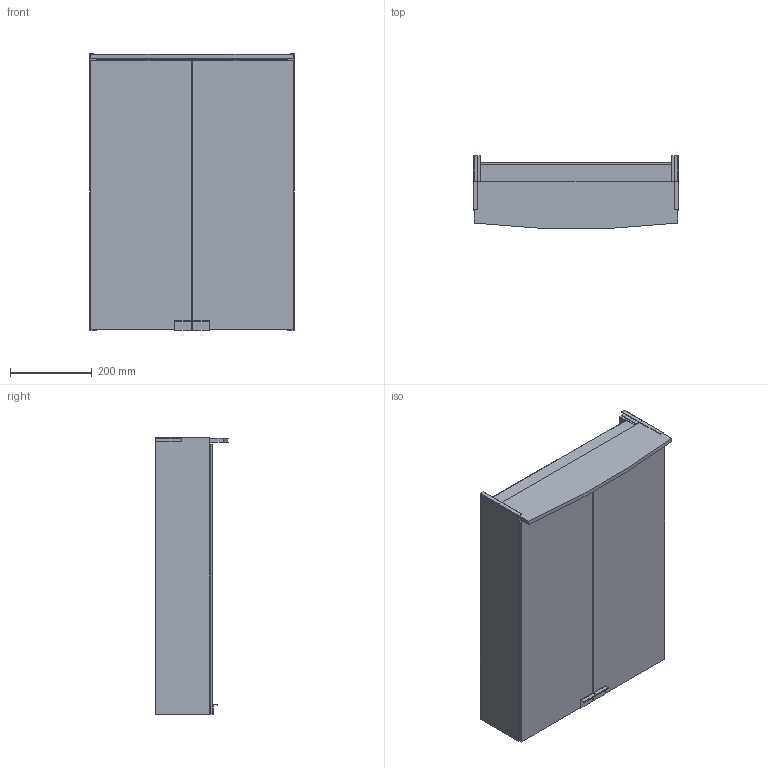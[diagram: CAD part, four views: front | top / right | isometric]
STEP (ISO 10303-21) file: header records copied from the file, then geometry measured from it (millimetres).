
FILE_DESCRIPTION(/* description */ (''),/* implementation_level */ '2;1');
FILE_NAME(/* name */ 'C:\Planerdaten\Export PLA\500.257.00.1\stp\500257.stp',/* time_stamp */ '2020-01-13T15:45:28+01:00',/* author */ ('JANAN'),/* organization */ (''),/* preprocessor_version */ 'ST-DEVELOPER v16.13',/* originating_system */ 'Autodesk Inventor 2018',/* authorisation */ '');
FILE_SCHEMA (('AUTOMOTIVE_DESIGN { 1 0 10303 214 3 1 1 }'));
Length unit declared in the file: millimetre
Products named in the file (1): SpglSchrk Ge+OptB B50 m/Bel 2-Tür w
Bounding box: 500 x 178.35 x 677 mm (x, y, z)
Volume: 9378471.3 mm3; surface area: 2336123.2 mm2
Topology: 3 solids, 3 shells, 90 faces, 250 edges, 166 vertices
Faces by surface type: plane 89, cylinder 1
Entity records: 2965 total; most frequent: CARTESIAN_POINT 507, ORIENTED_EDGE 500, DIRECTION 434, EDGE_CURVE 250, LINE 248, VECTOR 248, VERTEX_POINT 166, STYLED_ITEM 93
